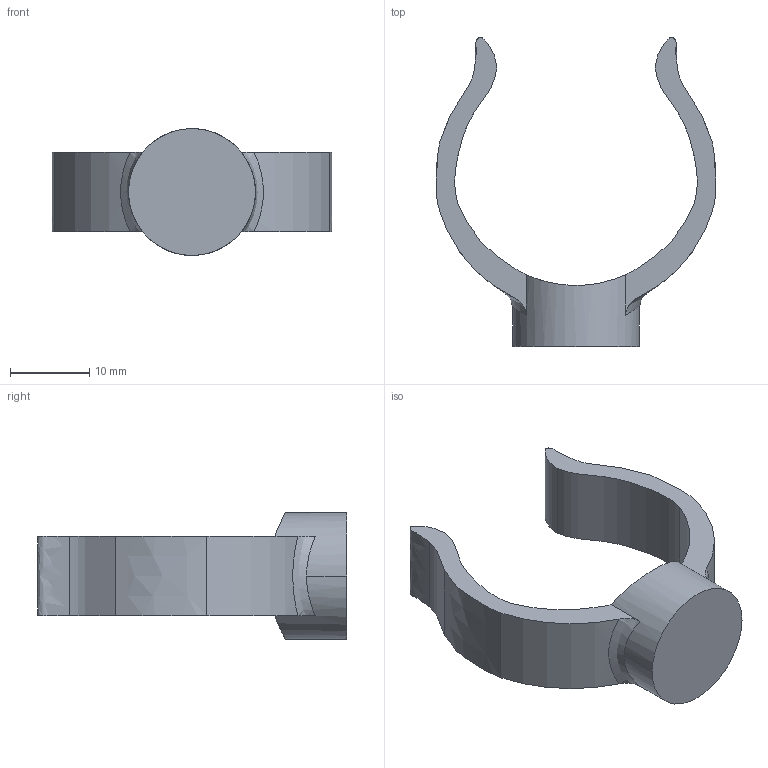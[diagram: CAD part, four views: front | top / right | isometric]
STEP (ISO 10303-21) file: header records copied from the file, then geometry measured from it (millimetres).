
FILE_DESCRIPTION (( 'STEP AP203' ), '1' );
FILE_NAME ('collier N1.STEP', '2025-09-04T13:16:58', ( '' ), ( '' ), 'SwSTEP 2.0', 'SolidWorks 2024', '' );
FILE_SCHEMA (( 'CONFIG_CONTROL_DESIGN' ));
Length unit declared in the file: millimetre
Products named in the file (1): collier N1
Bounding box: 35.24 x 38.95 x 16 mm (x, y, z)
Volume: 3539.5 mm3; surface area: 2617.5 mm2
Topology: 1 solids, 1 shells, 26 faces, 72 edges, 48 vertices
Faces by surface type: bspline 12, cylinder 7, plane 7
Entity records: 1303 total; most frequent: CARTESIAN_POINT 645, ORIENTED_EDGE 144, DIRECTION 84, EDGE_CURVE 72, VERTEX_POINT 48, B_SPLINE_CURVE_WITH_KNOTS 32, AXIS2_PLACEMENT_3D 29, FACE_OUTER_BOUND 26
